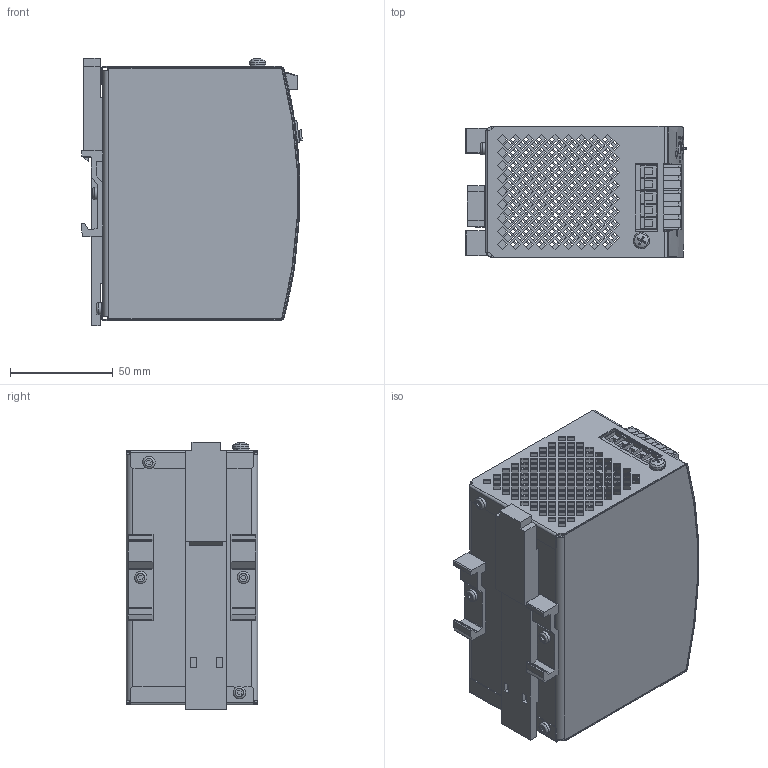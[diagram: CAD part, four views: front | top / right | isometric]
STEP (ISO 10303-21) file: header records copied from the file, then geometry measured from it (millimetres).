
FILE_DESCRIPTION(/* description */ (''),/* implementation_level */ '2;1');
FILE_NAME(/* name */ 'L:\MKT-GER\Neue Webdokumente\Daten von KO\Internet\md3_slv20_200.stp',/* time_stamp */ '2018-10-29T07:14:29+01:00',/* author */ ('rahns'),/* organization */ (''),/* preprocessor_version */ 'ST-DEVELOPER v17',/* originating_system */ 'Autodesk Inventor 2018',/* authorisation */ '');
FILE_SCHEMA (('AUTOMOTIVE_DESIGN { 1 0 10303 214 3 1 1 }'));
Products named in the file (14): 346.01; Housing Body 346; Housing Cover 346; SLIDER SL; T-HOLDER_S; MKT_SCREW 4x8; MKT_WASHER 4; MKT_SCREW 3x6; MKT_JUMPER BRACKET; MKT_JUMPER; TERMINAL 2P GR91; TERMINAL 3P GR91; MKT_4P STV60; FRONTFOIL 346.00
Assembly tree (17 placements, depth 2):
  346.01
    Housing Body 346
    Housing Cover 346
    SLIDER SL
    T-HOLDER_S  x2
    MKT_SCREW 4x8
    MKT_WASHER 4
    MKT_SCREW 3x6  x4
    MKT_JUMPER BRACKET
    MKT_JUMPER
    TERMINAL 2P GR91
    TERMINAL 3P GR91
    MKT_4P STV60
    FRONTFOIL 346.00
Bounding box: 107.6 x 64 x 130.5 mm (x, y, z)
Volume: 84984.3 mm3; surface area: 128337.6 mm2
Topology: 17 solids, 17 shells, 3470 faces, 9698 edges, 6450 vertices
Faces by surface type: plane 2437, bspline 771, cylinder 235, cone 16, torus 10, sphere 1
Full cylindrical faces by diameter (mm): 1 x2, 2.45 x2, 3 x4, 3.5 x2, 3.621 x1, 4 x1, 4.4 x1, 4.9 x1, 5.5 x5, 6 x4
Entity records: 284637 total; most frequent: CARTESIAN_POINT 200811, ORIENTED_EDGE 18966, DIRECTION 13224, EDGE_CURVE 9483, LINE 6920, VECTOR 6920, VERTEX_POINT 6303, EDGE_LOOP 4208
